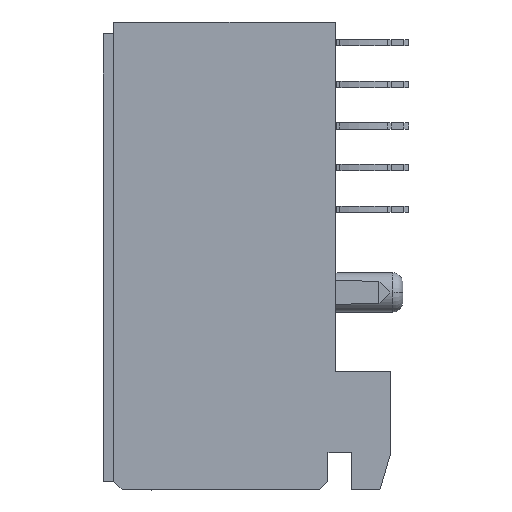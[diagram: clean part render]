
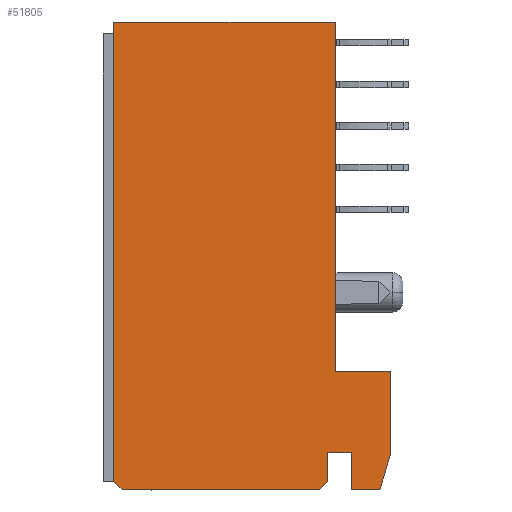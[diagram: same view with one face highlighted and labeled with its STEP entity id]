
A CAD part, left-side view. The second image highlights one B-rep face of the part: STEP entity #51805.
In plain terms, the highlighted planar face has unit normal (-1, 0, 0).
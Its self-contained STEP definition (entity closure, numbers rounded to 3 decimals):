
#3202 = LINE ( 'NONE', #3203, #92806 ) ;
#3203 = CARTESIAN_POINT ( 'NONE',  ( -13.913, -2.118, 11.487 ) ) ;
#3204 = DIRECTION ( 'NONE',  ( 0., 0., 1. ) ) ;
#6538 = VECTOR ( 'NONE', #112435, 1000. ) ;
#8307 = CARTESIAN_POINT ( 'NONE',  ( -13.913, -1.368, -10.964 ) ) ;
#8371 = LINE ( 'NONE', #8307, #92096 ) ;
#8399 = DIRECTION ( 'NONE',  ( 0., -0.707, 0.707 ) ) ;
#17408 = VECTOR ( 'NONE', #82097, 1000. ) ;
#17956 = EDGE_CURVE ( 'NONE', #113390, #98686, #50796, .T. ) ;
#18697 = EDGE_CURVE ( 'NONE', #112774, #112057, #8371, .T. ) ;
#19916 = EDGE_CURVE ( 'NONE', #98686, #113540, #42777, .T. ) ;
#20182 = EDGE_CURVE ( 'NONE', #114367, #98273, #38782, .T. ) ;
#20214 = EDGE_CURVE ( 'NONE', #98273, #99741, #38948, .T. ) ;
#20267 = EDGE_CURVE ( 'NONE', #98345, #99014, #52934, .T. ) ;
#21055 = EDGE_CURVE ( 'NONE', #112057, #113588, #112431, .T. ) ;
#38536 = CARTESIAN_POINT ( 'NONE',  ( -13.913, -2.918, 11.487 ) ) ;
#38540 = DIRECTION ( 'NONE',  ( 0., 0., -1. ) ) ;
#38782 = LINE ( 'NONE', #38536, #87694 ) ;
#38948 = LINE ( 'NONE', #38961, #87800 ) ;
#38961 = CARTESIAN_POINT ( 'NONE',  ( -13.913, 8.532, -10.964 ) ) ;
#38968 = DIRECTION ( 'NONE',  ( 0., -1., 0. ) ) ;
#42758 = CARTESIAN_POINT ( 'NONE',  ( -13.913, 8.532, -5.264 ) ) ;
#42777 = LINE ( 'NONE', #42758, #85769 ) ;
#42943 = DIRECTION ( 'NONE',  ( 0., 1., 0. ) ) ;
#45808 = AXIS2_PLACEMENT_3D ( 'NONE', #105673, #105675, #105679 ) ;
#47759 = CARTESIAN_POINT ( 'NONE',  ( -13.913, -2.918, -10.964 ) ) ;
#47819 = CARTESIAN_POINT ( 'NONE',  ( -13.913, 8.132, -10.964 ) ) ;
#48098 = CARTESIAN_POINT ( 'NONE',  ( -13.913, 8.532, 11.536 ) ) ;
#48113 = CARTESIAN_POINT ( 'NONE',  ( -13.913, -4.768, -5.264 ) ) ;
#48300 = CARTESIAN_POINT ( 'NONE',  ( -13.913, 8.532, -10.564 ) ) ;
#48445 = CARTESIAN_POINT ( 'NONE',  ( -13.913, -2.118, 11.536 ) ) ;
#48581 = CARTESIAN_POINT ( 'NONE',  ( -13.913, -4.268, -10.964 ) ) ;
#49126 = VECTOR ( 'NONE', #50687, 1000. ) ;
#50687 = DIRECTION ( 'NONE',  ( 0., 0., 1. ) ) ;
#50703 = CARTESIAN_POINT ( 'NONE',  ( -13.913, -4.768, 11.487 ) ) ;
#50796 = LINE ( 'NONE', #50703, #49126 ) ;
#51805 = ADVANCED_FACE ( 'NONE', ( #105617 ), #105628, .T. ) ;
#52917 = DIRECTION ( 'NONE',  ( 0., 0.707, 0.707 ) ) ;
#52921 = CARTESIAN_POINT ( 'NONE',  ( -13.913, 8.132, -10.964 ) ) ;
#52934 = LINE ( 'NONE', #52921, #88045 ) ;
#63433 = LINE ( 'NONE', #63434, #92758 ) ;
#63434 = CARTESIAN_POINT ( 'NONE',  ( -13.913, -4.268, -10.964 ) ) ;
#63435 = DIRECTION ( 'NONE',  ( 0., -0.282, 0.959 ) ) ;
#70338 = ORIENTED_EDGE ( 'NONE', *, *, #20267, .F. ) ;
#70422 = ORIENTED_EDGE ( 'NONE', *, *, #18697, .T. ) ;
#70465 = ORIENTED_EDGE ( 'NONE', *, *, #21055, .T. ) ;
#70545 = ORIENTED_EDGE ( 'NONE', *, *, #19916, .T. ) ;
#70572 = ORIENTED_EDGE ( 'NONE', *, *, #79625, .T. ) ;
#70580 = ORIENTED_EDGE ( 'NONE', *, *, #78603, .T. ) ;
#70603 = ORIENTED_EDGE ( 'NONE', *, *, #78574, .T. ) ;
#70634 = ORIENTED_EDGE ( 'NONE', *, *, #17956, .T. ) ;
#70642 = ORIENTED_EDGE ( 'NONE', *, *, #20214, .T. ) ;
#70747 = ORIENTED_EDGE ( 'NONE', *, *, #78129, .F. ) ;
#70849 = ORIENTED_EDGE ( 'NONE', *, *, #20182, .T. ) ;
#71244 = ORIENTED_EDGE ( 'NONE', *, *, #78282, .T. ) ;
#72136 = ORIENTED_EDGE ( 'NONE', *, *, #78482, .T. ) ;
#78129 = EDGE_CURVE ( 'NONE', #98670, #99296, #81451, .T. ) ;
#78282 = EDGE_CURVE ( 'NONE', #113540, #99296, #3202, .T. ) ;
#78482 = EDGE_CURVE ( 'NONE', #99741, #113390, #63433, .T. ) ;
#78574 = EDGE_CURVE ( 'NONE', #98345, #112774, #80620, .T. ) ;
#78603 = EDGE_CURVE ( 'NONE', #113588, #114367, #80984, .T. ) ;
#79625 = EDGE_CURVE ( 'NONE', #98670, #99014, #82095, .T. ) ;
#80576 = CARTESIAN_POINT ( 'NONE',  ( -13.913, 8.532, -10.964 ) ) ;
#80620 = LINE ( 'NONE', #80576, #92882 ) ;
#80633 = DIRECTION ( 'NONE',  ( 0., -1., 0. ) ) ;
#80964 = CARTESIAN_POINT ( 'NONE',  ( -13.913, 8.532, -9.164 ) ) ;
#80984 = LINE ( 'NONE', #80964, #92935 ) ;
#80996 = DIRECTION ( 'NONE',  ( 0., -1., 0. ) ) ;
#81451 = LINE ( 'NONE', #81456, #93148 ) ;
#81456 = CARTESIAN_POINT ( 'NONE',  ( -13.913, -2.268, 11.536 ) ) ;
#81459 = DIRECTION ( 'NONE',  ( 0., -1., 0. ) ) ;
#82095 = LINE ( 'NONE', #82096, #17408 ) ;
#82096 = CARTESIAN_POINT ( 'NONE',  ( -13.913, 8.532, 11.487 ) ) ;
#82097 = DIRECTION ( 'NONE',  ( 0., 0., -1. ) ) ;
#85769 = VECTOR ( 'NONE', #42943, 1000. ) ;
#87694 = VECTOR ( 'NONE', #38540, 1000. ) ;
#87800 = VECTOR ( 'NONE', #38968, 1000. ) ;
#87952 = CARTESIAN_POINT ( 'NONE',  ( -13.913, -1.768, -10.564 ) ) ;
#88045 = VECTOR ( 'NONE', #52917, 1000. ) ;
#88279 = CARTESIAN_POINT ( 'NONE',  ( -13.913, -1.368, -10.964 ) ) ;
#88410 = CARTESIAN_POINT ( 'NONE',  ( -13.913, -4.768, -9.264 ) ) ;
#88512 = CARTESIAN_POINT ( 'NONE',  ( -13.913, -2.118, -5.264 ) ) ;
#88531 = CARTESIAN_POINT ( 'NONE',  ( -13.913, -1.768, -9.164 ) ) ;
#88765 = CARTESIAN_POINT ( 'NONE',  ( -13.913, -2.918, -9.164 ) ) ;
#92096 = VECTOR ( 'NONE', #8399, 1000. ) ;
#92758 = VECTOR ( 'NONE', #63435, 1000. ) ;
#92806 = VECTOR ( 'NONE', #3204, 1000. ) ;
#92882 = VECTOR ( 'NONE', #80633, 1000. ) ;
#92935 = VECTOR ( 'NONE', #80996, 1000. ) ;
#93148 = VECTOR ( 'NONE', #81459, 1000. ) ;
#98273 = VERTEX_POINT ( 'NONE', #47759 ) ;
#98345 = VERTEX_POINT ( 'NONE', #47819 ) ;
#98670 = VERTEX_POINT ( 'NONE', #48098 ) ;
#98686 = VERTEX_POINT ( 'NONE', #48113 ) ;
#99014 = VERTEX_POINT ( 'NONE', #48300 ) ;
#99296 = VERTEX_POINT ( 'NONE', #48445 ) ;
#99741 = VERTEX_POINT ( 'NONE', #48581 ) ;
#102366 = EDGE_LOOP ( 'NONE', ( #70747, #70572, #70338, #70603, #70422, #70465, #70580, #70849, #70642, #72136, #70634, #70545, #71244 ) ) ;
#105617 = FACE_OUTER_BOUND ( 'NONE', #102366, .T. ) ;
#105628 = PLANE ( 'NONE',  #45808 ) ;
#105673 = CARTESIAN_POINT ( 'NONE',  ( -13.913, 8.532, 11.487 ) ) ;
#105675 = DIRECTION ( 'NONE',  ( -1., 0., 0. ) ) ;
#105679 = DIRECTION ( 'NONE',  ( 0., 0., 1. ) ) ;
#112057 = VERTEX_POINT ( 'NONE', #87952 ) ;
#112431 = LINE ( 'NONE', #112433, #6538 ) ;
#112433 = CARTESIAN_POINT ( 'NONE',  ( -13.913, -1.768, 11.487 ) ) ;
#112435 = DIRECTION ( 'NONE',  ( 0., 0., 1. ) ) ;
#112774 = VERTEX_POINT ( 'NONE', #88279 ) ;
#113390 = VERTEX_POINT ( 'NONE', #88410 ) ;
#113540 = VERTEX_POINT ( 'NONE', #88512 ) ;
#113588 = VERTEX_POINT ( 'NONE', #88531 ) ;
#114367 = VERTEX_POINT ( 'NONE', #88765 ) ;
